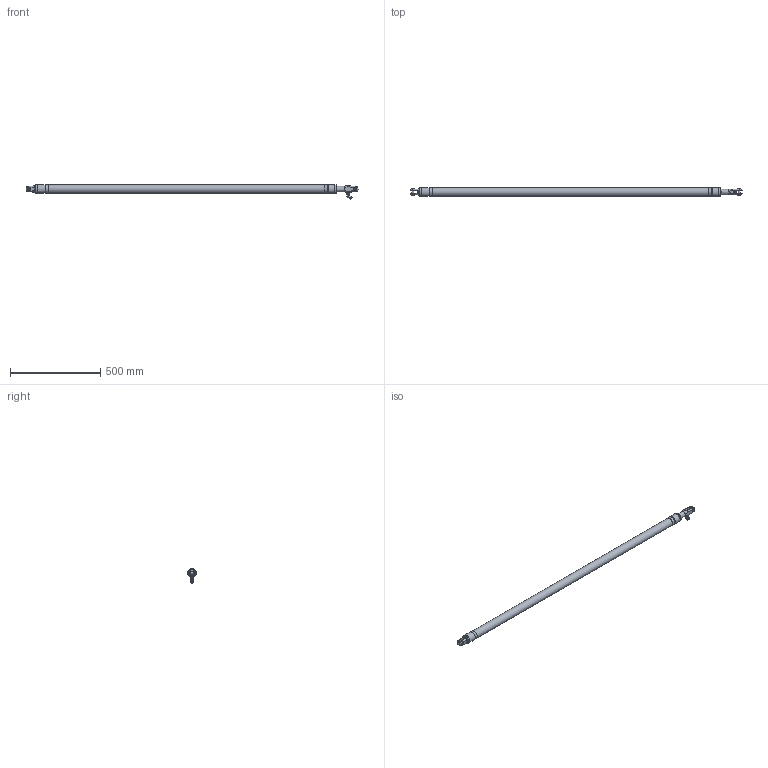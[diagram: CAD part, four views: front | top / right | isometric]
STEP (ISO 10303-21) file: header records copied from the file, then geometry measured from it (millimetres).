
FILE_DESCRIPTION(/* description */ (''),/* implementation_level */ '2;1');
FILE_NAME(/* name */ 'Q:\AA BRAND HYDRAULICS\HYDRAULICS FAMILY DIRECTORY\HYDRAULICS\CYLINDERS\VANGS\ALUMINIUM SINGLE ACTING - STAINLESS ON REQUEST (-0010 To -0150)\VSA-0010-S230-NP-71-L1800\VSA-0010-S230-NP-71-L1800 (Closed).stp',/* time_stamp */ '2018-04-09T10:28:38+01:00',/* author */ ('Lorena'),/* organization */ (''),/* preprocessor_version */ 'ST-DEVELOPER v17',/* originating_system */ 'Autodesk Inventor 2018',/* authorisation */ '');
FILE_SCHEMA (('AUTOMOTIVE_DESIGN { 1 0 10303 214 3 1 1 }'));
Products named in the file (1): VSA-0010-S230-NP-71-L1800
Bounding box: 1835.52 x 48.8 x 81.7 mm (x, y, z)
Volume: 2887672.8 mm3; surface area: 269080.6 mm2
Topology: 2 solids, 3 shells, 1777 faces, 5068 edges, 3362 vertices
Faces by surface type: plane 976, bspline 573, cone 148, cylinder 72, torus 4, sphere 4
Full cylindrical faces by diameter (mm): 2.5 x1, 3.5 x1, 4.2 x1, 4.4 x1, 5 x3, 7.728 x1, 8.728 x1, 8.8 x3, 9.728 x2, 10 x2, 11.11 x1, 11.8 x2, 12 x1, 12.5 x1, 12.7 x2, 13 x1, 15.1 x3, 15.875 x2, 17 x1, 30 x1, 45.8 x1, 46.8 x1, 48.8 x3
Entity records: 67433 total; most frequent: CARTESIAN_POINT 23464, ORIENTED_EDGE 10128, DIRECTION 6557, EDGE_CURVE 5064, VERTEX_POINT 3365, LINE 3025, VECTOR 3025, EDGE_LOOP 1891
